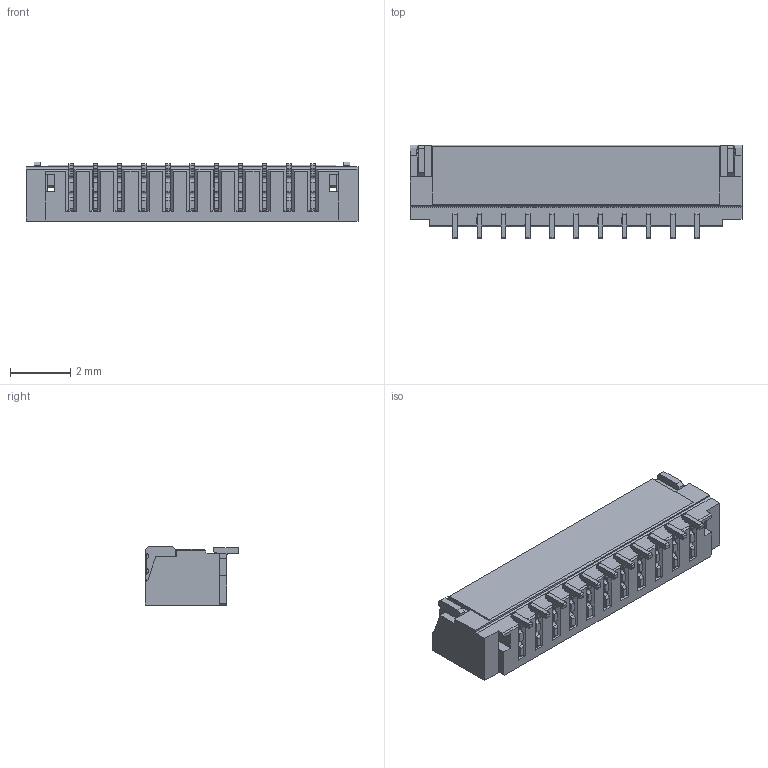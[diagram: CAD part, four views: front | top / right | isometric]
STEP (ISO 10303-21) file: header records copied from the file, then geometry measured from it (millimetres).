
FILE_DESCRIPTION((''),'2;1');
FILE_NAME('S-88458-11XX-XX-XX','2012-11-16T',('12239592'),(''),'PRO/ENGINEER BY PARAMETRIC TECHNOLOGY CORPORATION, 2009360','PRO/ENGINEER BY PARAMETRIC TECHNOLOGY CORPORATION, 2009360','');
FILE_SCHEMA(('CONFIG_CONTROL_DESIGN'));
Length unit declared in the file: millimetre
Products named in the file (1): S-88458-11XX-XX-XX
Bounding box: 10.98 x 3.1 x 1.98 mm (x, y, z)
Volume: 32.7 mm3; surface area: 199 mm2
Topology: 1 solids, 1 shells, 1008 faces, 3238 edges, 2483 vertices
Faces by surface type: plane 702, cylinder 306
Entity records: 34913 total; most frequent: CARTESIAN_POINT 6459, ORIENTED_EDGE 5908, DIRECTION 5849, EDGE_CURVE 2954, VECTOR 2537, LINE 2537, VERTEX_POINT 1915, AXIS2_PLACEMENT_3D 1656
